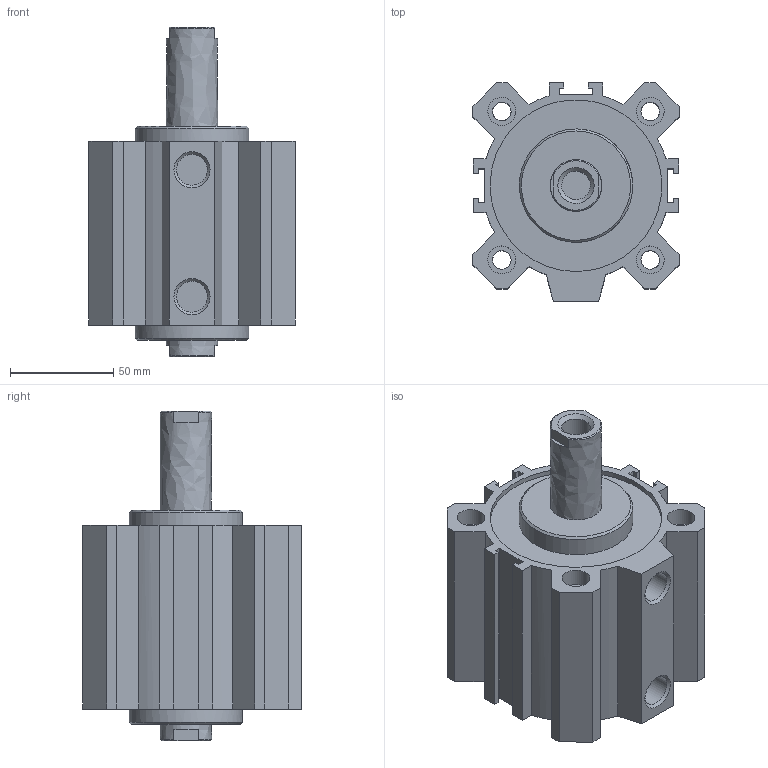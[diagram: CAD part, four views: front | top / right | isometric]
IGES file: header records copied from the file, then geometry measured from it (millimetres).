
Global section: file name: 1514_80_0040; native system: Autodesk Inventor 2014; preprocessor: unknown; author: A. Manieri; date: 20160824.142347; units: millimetre
Bounding box: 100 x 106 x 160 mm (x, y, z)
Volume: 586716 mm3; surface area: 133638.2 mm2
Topology: 2 solids, 2 shells, 132 faces, 346 edges, 238 vertices
Faces by surface type: bspline 132
